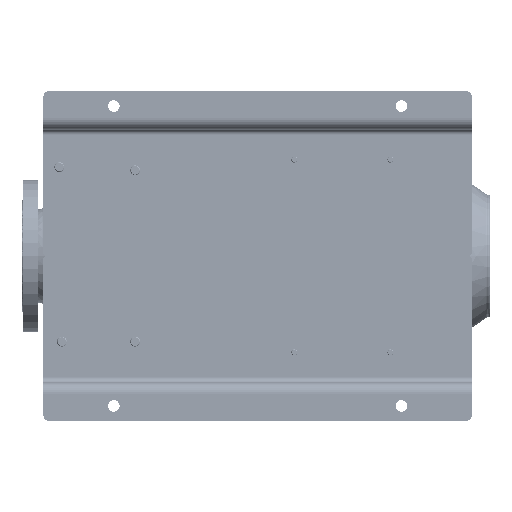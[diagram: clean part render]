
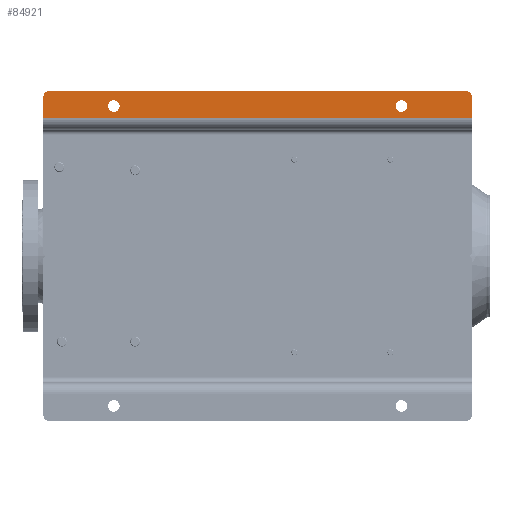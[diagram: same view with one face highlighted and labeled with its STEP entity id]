
A CAD part, front view. The second image highlights one B-rep face of the part: STEP entity #84921.
In plain terms, the highlighted planar face has unit normal (0, -1, 0).
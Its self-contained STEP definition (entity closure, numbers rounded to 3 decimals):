
#3610 = CARTESIAN_POINT ( 'NONE',  ( 515., 0., -585. ) ) ;
#3953 = ORIENTED_EDGE ( 'NONE', *, *, #192003, .T. ) ;
#3984 = VERTEX_POINT ( 'NONE', #103245 ) ;
#5780 = VECTOR ( 'NONE', #117095, 1000. ) ;
#6405 = EDGE_CURVE ( 'NONE', #174914, #12154, #121911, .T. ) ;
#8643 = CIRCLE ( 'NONE', #172178, 9.5 ) ;
#11253 = EDGE_CURVE ( 'NONE', #12154, #193919, #187484, .T. ) ;
#11821 = CARTESIAN_POINT ( 'NONE',  ( 515., 0., -585. ) ) ;
#11844 = FACE_BOUND ( 'NONE', #160993, .T. ) ;
#12154 = VERTEX_POINT ( 'NONE', #37379 ) ;
#12687 = VERTEX_POINT ( 'NONE', #40849 ) ;
#15803 = CIRCLE ( 'NONE', #99155, 9.5 ) ;
#24548 = CARTESIAN_POINT ( 'NONE',  ( 540., 0., -690. ) ) ;
#27582 = CARTESIAN_POINT ( 'NONE',  ( 540., 0., -700. ) ) ;
#27850 = CARTESIAN_POINT ( 'NONE',  ( 495., 0., -700. ) ) ;
#30611 = CARTESIAN_POINT ( 'NONE',  ( 515., 0., -594.5 ) ) ;
#34809 = EDGE_CURVE ( 'NONE', #157631, #3984, #15803, .T. ) ;
#36974 = EDGE_LOOP ( 'NONE', ( #175307, #163707 ) ) ;
#37379 = CARTESIAN_POINT ( 'NONE',  ( 530., 0., -700. ) ) ;
#40849 = CARTESIAN_POINT ( 'NONE',  ( 495., 0., 0. ) ) ;
#41632 = ORIENTED_EDGE ( 'NONE', *, *, #178030, .T. ) ;
#53933 = DIRECTION ( 'NONE',  ( 1., 0., 0. ) ) ;
#56259 = ORIENTED_EDGE ( 'NONE', *, *, #11253, .T. ) ;
#57598 = EDGE_LOOP ( 'NONE', ( #110281, #3953, #168651, #56259, #137123, #107985 ) ) ;
#58831 = CARTESIAN_POINT ( 'NONE',  ( 515., 0., -105.5 ) ) ;
#62563 = CARTESIAN_POINT ( 'NONE',  ( 515., 0., -115. ) ) ;
#68893 = DIRECTION ( 'NONE',  ( 0., 0., -1. ) ) ;
#69019 = CARTESIAN_POINT ( 'NONE',  ( 477., 0., 0. ) ) ;
#71172 = DIRECTION ( 'NONE',  ( 0., 1., 0. ) ) ;
#72903 = EDGE_CURVE ( 'NONE', #81578, #151213, #104857, .T. ) ;
#74156 = DIRECTION ( 'NONE',  ( 0., 0., -1. ) ) ;
#75151 = FACE_BOUND ( 'NONE', #36974, .T. ) ;
#77389 = DIRECTION ( 'NONE',  ( 0., 0., -1. ) ) ;
#78073 = DIRECTION ( 'NONE',  ( 0., 0., -1. ) ) ;
#81578 = VERTEX_POINT ( 'NONE', #85930 ) ;
#84921 = ADVANCED_FACE ( 'NONE', ( #11844, #75151, #91222 ), #197715, .T. ) ;
#85930 = CARTESIAN_POINT ( 'NONE',  ( 515., 0., -124.5 ) ) ;
#89215 = DIRECTION ( 'NONE',  ( 0., -1., 0. ) ) ;
#89876 = LINE ( 'NONE', #136094, #100389 ) ;
#91177 = DIRECTION ( 'NONE',  ( 0., -1., 0. ) ) ;
#91222 = FACE_OUTER_BOUND ( 'NONE', #57598, .T. ) ;
#92193 = CARTESIAN_POINT ( 'NONE',  ( 477., 0., -700. ) ) ;
#93733 = DIRECTION ( 'NONE',  ( 0., 1., 0. ) ) ;
#94268 = AXIS2_PLACEMENT_3D ( 'NONE', #172444, #161311, #68893 ) ;
#94346 = VECTOR ( 'NONE', #53933, 1000. ) ;
#96873 = EDGE_CURVE ( 'NONE', #3984, #157631, #8643, .T. ) ;
#99155 = AXIS2_PLACEMENT_3D ( 'NONE', #3610, #172402, #107189 ) ;
#100389 = VECTOR ( 'NONE', #121020, 1000. ) ;
#100857 = AXIS2_PLACEMENT_3D ( 'NONE', #124276, #91177, #78073 ) ;
#103245 = CARTESIAN_POINT ( 'NONE',  ( 515., 0., -575.5 ) ) ;
#104857 = CIRCLE ( 'NONE', #94268, 9.5 ) ;
#107189 = DIRECTION ( 'NONE',  ( 0., 0., -1. ) ) ;
#107985 = ORIENTED_EDGE ( 'NONE', *, *, #177071, .T. ) ;
#110281 = ORIENTED_EDGE ( 'NONE', *, *, #179100, .F. ) ;
#115111 = LINE ( 'NONE', #27582, #5780 ) ;
#115936 = VECTOR ( 'NONE', #135993, 1000. ) ;
#117095 = DIRECTION ( 'NONE',  ( 0., 0., 1. ) ) ;
#121020 = DIRECTION ( 'NONE',  ( 0., 0., -1. ) ) ;
#121911 = LINE ( 'NONE', #183209, #115936 ) ;
#124276 = CARTESIAN_POINT ( 'NONE',  ( 530., 0., -690. ) ) ;
#124582 = CARTESIAN_POINT ( 'NONE',  ( 530., 0., -10. ) ) ;
#128605 = CARTESIAN_POINT ( 'NONE',  ( 540., 0., -10. ) ) ;
#129761 = CIRCLE ( 'NONE', #184282, 9.5 ) ;
#132916 = AXIS2_PLACEMENT_3D ( 'NONE', #124582, #184886, #77389 ) ;
#135393 = ORIENTED_EDGE ( 'NONE', *, *, #72903, .T. ) ;
#135993 = DIRECTION ( 'NONE',  ( 1., 0., 0. ) ) ;
#136094 = CARTESIAN_POINT ( 'NONE',  ( 495., 0., -700. ) ) ;
#137123 = ORIENTED_EDGE ( 'NONE', *, *, #187664, .T. ) ;
#145385 = LINE ( 'NONE', #69019, #94346 ) ;
#148938 = CARTESIAN_POINT ( 'NONE',  ( 530., 0., 0. ) ) ;
#151213 = VERTEX_POINT ( 'NONE', #58831 ) ;
#152896 = VERTEX_POINT ( 'NONE', #128605 ) ;
#155292 = CIRCLE ( 'NONE', #132916, 10. ) ;
#157631 = VERTEX_POINT ( 'NONE', #30611 ) ;
#160993 = EDGE_LOOP ( 'NONE', ( #41632, #135393 ) ) ;
#161311 = DIRECTION ( 'NONE',  ( 0., 1., 0. ) ) ;
#161575 = VERTEX_POINT ( 'NONE', #148938 ) ;
#163707 = ORIENTED_EDGE ( 'NONE', *, *, #34809, .T. ) ;
#164631 = AXIS2_PLACEMENT_3D ( 'NONE', #92193, #89215, #74156 ) ;
#168651 = ORIENTED_EDGE ( 'NONE', *, *, #6405, .T. ) ;
#172178 = AXIS2_PLACEMENT_3D ( 'NONE', #11821, #71172, #194719 ) ;
#172402 = DIRECTION ( 'NONE',  ( 0., 1., 0. ) ) ;
#172444 = CARTESIAN_POINT ( 'NONE',  ( 515., 0., -115. ) ) ;
#174914 = VERTEX_POINT ( 'NONE', #27850 ) ;
#175307 = ORIENTED_EDGE ( 'NONE', *, *, #96873, .T. ) ;
#177071 = EDGE_CURVE ( 'NONE', #152896, #161575, #155292, .T. ) ;
#178030 = EDGE_CURVE ( 'NONE', #151213, #81578, #129761, .T. ) ;
#179100 = EDGE_CURVE ( 'NONE', #12687, #161575, #145385, .T. ) ;
#183209 = CARTESIAN_POINT ( 'NONE',  ( 477., 0., -700. ) ) ;
#184282 = AXIS2_PLACEMENT_3D ( 'NONE', #62563, #93733, #187136 ) ;
#184886 = DIRECTION ( 'NONE',  ( 0., -1., 0. ) ) ;
#187136 = DIRECTION ( 'NONE',  ( 0., 0., -1. ) ) ;
#187484 = CIRCLE ( 'NONE', #100857, 10. ) ;
#187664 = EDGE_CURVE ( 'NONE', #193919, #152896, #115111, .T. ) ;
#192003 = EDGE_CURVE ( 'NONE', #12687, #174914, #89876, .T. ) ;
#193919 = VERTEX_POINT ( 'NONE', #24548 ) ;
#194719 = DIRECTION ( 'NONE',  ( 0., 0., -1. ) ) ;
#197715 = PLANE ( 'NONE',  #164631 ) ;
